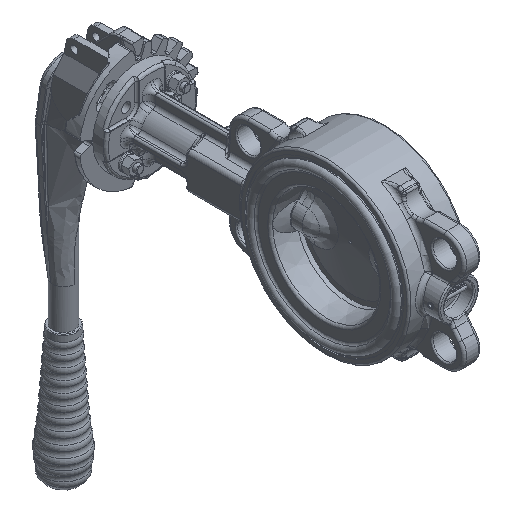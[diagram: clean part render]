
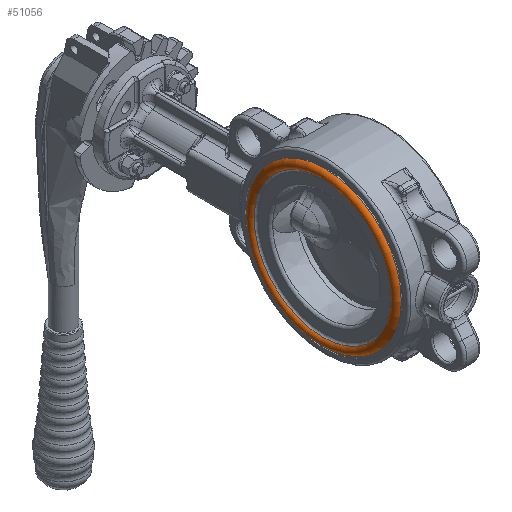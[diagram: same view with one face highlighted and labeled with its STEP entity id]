
A CAD part, isometric view. The second image highlights one B-rep face of the part: STEP entity #51056.
In plain terms, the highlighted toroidal (fillet/blend) face has major radius 54.75 mm and minor radius 3.25 mm.
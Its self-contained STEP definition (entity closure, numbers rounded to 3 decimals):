
#51025=CARTESIAN_POINT('',(-24.143,0.,51.814));
#51026=VERTEX_POINT('',#51025);
#51027=CARTESIAN_POINT('',(-24.143,0.,0.));
#51028=DIRECTION('',(-1.0,0.0,0.0));
#51029=DIRECTION('',(0.0,0.0,1.0));
#51030=AXIS2_PLACEMENT_3D('',#51027,#51028,#51029);
#51031=CIRCLE('',#51030,51.814);
#51032=EDGE_CURVE('',#51026,#51026,#51031,.T.);
#51037=CARTESIAN_POINT('',(-22.75,0.,0.));
#51038=DIRECTION('',(-1.0,0.0,0.0));
#51039=DIRECTION('',(0.0,0.0,1.0));
#51040=AXIS2_PLACEMENT_3D('',#51037,#51038,#51039);
#51041=TOROIDAL_SURFACE('',#51040,54.75,3.25);
#51042=ORIENTED_EDGE('',*,*,#51032,.F.);
#51043=EDGE_LOOP('',(#51042));
#51044=FACE_OUTER_BOUND('',#51043,.T.);
#51045=CARTESIAN_POINT('',(-22.75,0.,58.));
#51046=VERTEX_POINT('',#51045);
#51047=CARTESIAN_POINT('',(-22.75,0.,0.));
#51048=DIRECTION('',(-1.0,0.0,0.0));
#51049=DIRECTION('',(0.0,0.0,1.0));
#51050=AXIS2_PLACEMENT_3D('',#51047,#51048,#51049);
#51051=CIRCLE('',#51050,58.);
#51052=EDGE_CURVE('',#51046,#51046,#51051,.T.);
#51053=ORIENTED_EDGE('',*,*,#51052,.T.);
#51054=EDGE_LOOP('',(#51053));
#51055=FACE_BOUND('',#51054,.T.);
#51056=ADVANCED_FACE('',(#51044,#51055),#51041,.T.);
